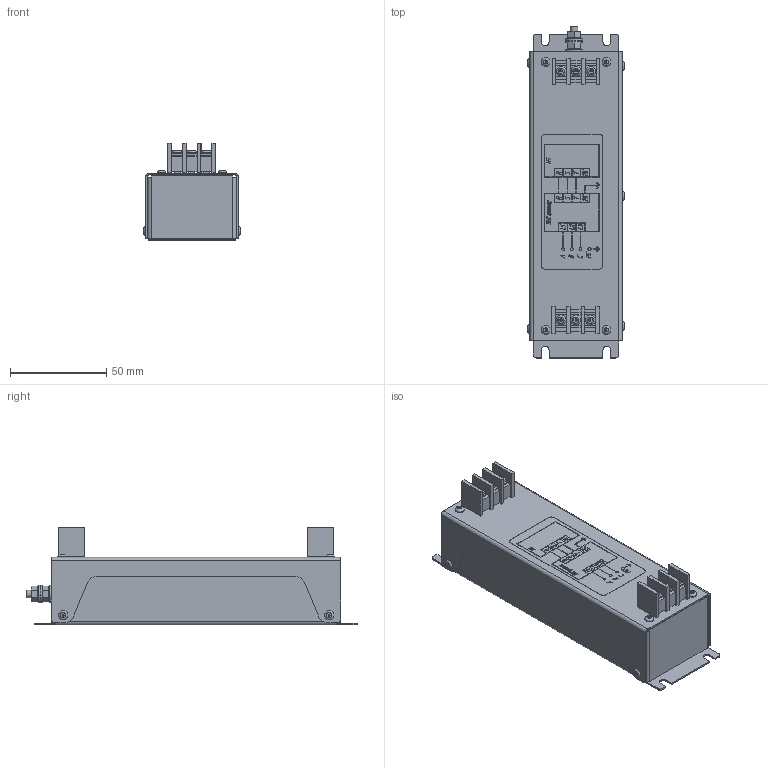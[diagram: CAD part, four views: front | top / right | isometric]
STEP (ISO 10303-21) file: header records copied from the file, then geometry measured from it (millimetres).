
FILE_DESCRIPTION(('STEP AP203'), '1');
FILE_NAME('Ñáîðî÷íàÿ ìîäåëü _ IEF-5.5_15.5-4 G3', '', ('UNSPECIFIED'), ('UNSPECIFIED'), 'C3D Converter', 'C3D Toolkit', '');
FILE_SCHEMA(('CONFIG_CONTROL_DESIGN'));
Length unit declared in the file: millimetre
Products named in the file (37): IEF-5.5/15.5-4 G3; IEF-5.5_15.5-4; PCB; Board; Open CASCADE STEP translator 6.8 29.1.1; C1; Конденсатор_C1-C6_1uF; C2; C3; C4; C5; C6; C7; Конденсатор_C7_0.1_uF; L1; Дроссель_L1-L3_(нов)___IEF-5.5_15; L2; L3; R1; Резистор_R1-R3_1МОм; R2; R3; R4; Резистор_R4_750_кОм; XT1; Клеммный_блок_v.2; XT2
Assembly tree (57 placements, depth 4):
  IEF-5.5/15.5-4 G3
    IEF-5.5/15.5-4 G3
    (unnamed)  x5
    (unnamed)  x4
    IEF-5.5_15.5-4
    IEF-5.5_15.5-4  x3
    IEF-5.5_15.5-4  x2
    IEF-5.5_15.5-4  x2
    (unnamed)
    (unnamed)
    IEF-5.5/15.5-4 G3
    PCB
      Board
        Open CASCADE STEP translator 6.8 29.1.1
      C1
        Конденсатор_C1-C6_1uF
      C2
        Конденсатор_C1-C6_1uF
      C3
        Конденсатор_C1-C6_1uF
      C4
        Конденсатор_C1-C6_1uF
      C5
        Конденсатор_C1-C6_1uF
      C6
        Конденсатор_C1-C6_1uF
      C7
        Конденсатор_C7_0.1_uF
      L1
        Дроссель_L1-L3_(нов)___IEF-5.5_15
      L2
        Дроссель_L1-L3_(нов)___IEF-5.5_15
      L3
        Дроссель_L1-L3_(нов)___IEF-5.5_15
      R1
        Резистор_R1-R3_1МОм
      R2
        Резистор_R1-R3_1МОм
      R3
        Резистор_R1-R3_1МОм
      R4
        Резистор_R4_750_кОм
      XT1
        Клеммный_блок_v.2
      XT2
        Клеммный_блок_v.2
    (unnamed)
Bounding box: 50 x 172.2 x 50.71 mm (x, y, z)
Volume: 82909.3 mm3; surface area: 108801.4 mm2
Topology: 39 solids, 39 shells, 5115 faces, 14285 edges, 9474 vertices
Faces by surface type: plane 3326, cylinder 1715, torus 63, revolution 6, cone 5
Full cylindrical faces by diameter (mm): 0.8 x30, 1 x33, 1.5 x12, 2 x6, 2.5 x1, 2.6 x15, 3 x4, 3.2 x4, 3.3 x2, 3.5 x9, 3.8 x1, 4 x3, 4.5 x9, 5 x11, 9 x3, 12 x1, 23 x3
Entity records: 188215 total; most frequent: CARTESIAN_POINT 26705, ORIENTED_EDGE 26138, DIRECTION 25738, EDGE_CURVE 13069, LINE 9780, VECTOR 9780, VERTEX_POINT 8759, AXIS2_PLACEMENT_3D 7978
